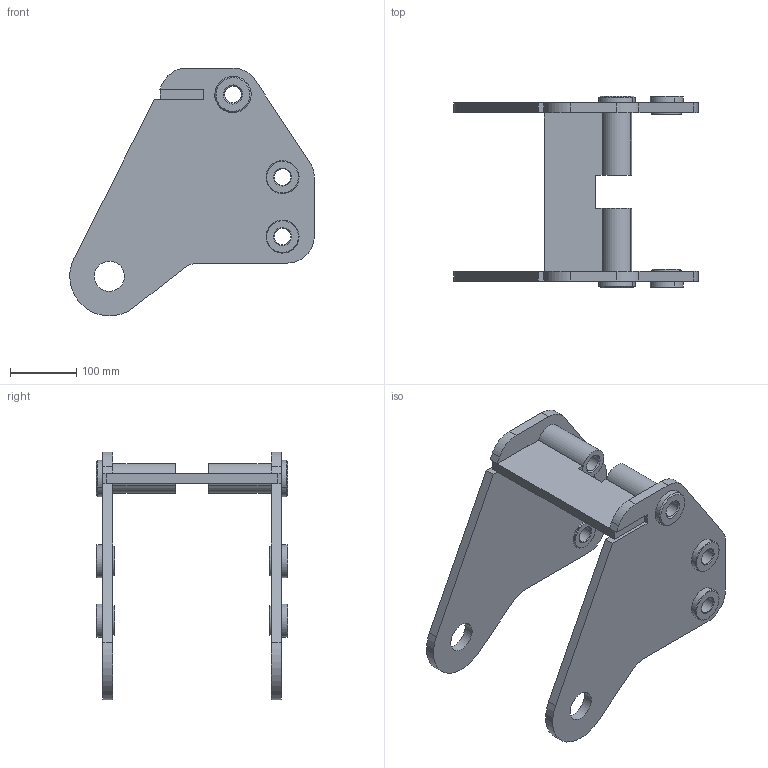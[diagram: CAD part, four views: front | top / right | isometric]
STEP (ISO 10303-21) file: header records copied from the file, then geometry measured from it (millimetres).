
FILE_DESCRIPTION(('CATIA V5 STEP Exchange'),'2;1');
FILE_NAME('N:\2-Examen\ULTRA CONFIDENTIEL\stand\DWELBRA0132_A.stp','2014-04-21T09:40:33+00:00',('none'),('none'),'CATIA Version 5 Release 19 GA (IN-10)','CATIA V5 STEP AP203','none');
FILE_SCHEMA(('CONFIG_CONTROL_DESIGN'));
Length unit declared in the file: millimetre
Products named in the file (1): DWELBRA0132_A
Bounding box: 369.96 x 290 x 375 mm (x, y, z)
Volume: 3143705.7 mm3; surface area: 527800.4 mm2
Topology: 9 solids, 9 shells, 164 faces, 376 edges, 236 vertices
Faces by surface type: cylinder 64, plane 56, cone 44
Entity records: 4270 total; most frequent: ORIENTED_EDGE 752, CARTESIAN_POINT 721, DIRECTION 592, EDGE_CURVE 376, AXIS2_PLACEMENT_3D 281, VERTEX_POINT 236, VECTOR 204, LINE 204
